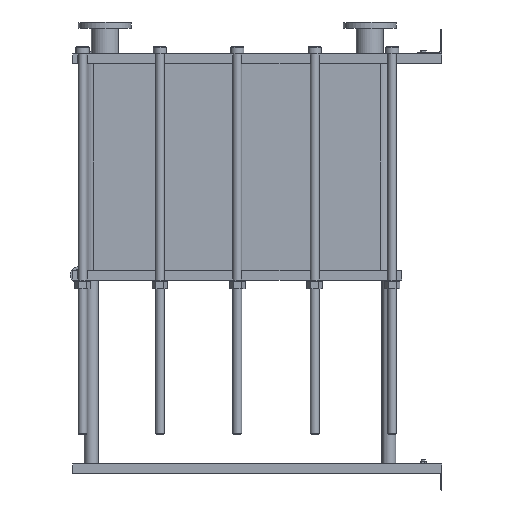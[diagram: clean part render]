
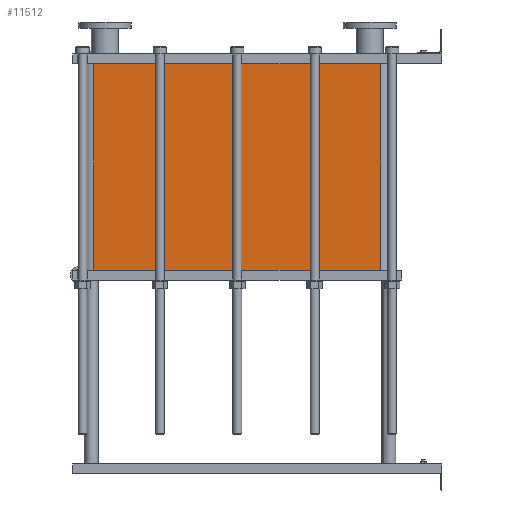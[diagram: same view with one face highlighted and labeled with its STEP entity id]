
A CAD part, left-side view. The second image highlights one B-rep face of the part: STEP entity #11512.
In plain terms, the highlighted planar face has unit normal (-1, 0, 0).
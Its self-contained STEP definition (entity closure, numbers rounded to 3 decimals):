
#1129=LINE('',#23232,#2102);
#1130=LINE('',#23236,#2103);
#1131=LINE('',#23238,#2104);
#1132=LINE('',#23239,#2105);
#2102=VECTOR('',#15887,10.);
#2103=VECTOR('',#15892,10.);
#2104=VECTOR('',#15893,10.);
#2105=VECTOR('',#15894,10.);
#3267=FACE_OUTER_BOUND('',#4093,.T.);
#4093=EDGE_LOOP('',(#10103,#10104,#10105,#10106));
#5642=VERTEX_POINT('',#23229);
#5643=VERTEX_POINT('',#23231);
#5644=VERTEX_POINT('',#23235);
#5645=VERTEX_POINT('',#23237);
#7159=EDGE_CURVE('',#5643,#5642,#1129,.T.);
#7161=EDGE_CURVE('',#5642,#5644,#1130,.T.);
#7162=EDGE_CURVE('',#5645,#5644,#1131,.T.);
#7163=EDGE_CURVE('',#5645,#5643,#1132,.T.);
#10103=ORIENTED_EDGE('',*,*,#7161,.T.);
#10104=ORIENTED_EDGE('',*,*,#7162,.F.);
#10105=ORIENTED_EDGE('',*,*,#7163,.T.);
#10106=ORIENTED_EDGE('',*,*,#7159,.T.);
#10857=PLANE('',#12751);
#11512=ADVANCED_FACE('',(#3267),#10857,.T.);
#12751=AXIS2_PLACEMENT_3D('',#23234,#15890,#15891);
#15887=DIRECTION('',(0.,0.,-1.));
#15890=DIRECTION('center_axis',(-1.,0.,0.));
#15891=DIRECTION('ref_axis',(0.,1.,0.));
#15892=DIRECTION('',(0.,-1.,0.));
#15893=DIRECTION('',(0.,0.,-1.));
#15894=DIRECTION('',(0.,1.,0.));
#23229=CARTESIAN_POINT('',(-200.,1414.,-838.35));
#23231=CARTESIAN_POINT('',(-200.,1414.,0.));
#23232=CARTESIAN_POINT('',(-200.,1414.,0.));
#23234=CARTESIAN_POINT('Origin',(-200.,248.,0.));
#23235=CARTESIAN_POINT('',(-200.,248.,-838.35));
#23236=CARTESIAN_POINT('',(-200.,539.5,-838.35));
#23237=CARTESIAN_POINT('',(-200.,248.,0.));
#23238=CARTESIAN_POINT('',(-200.,248.,0.));
#23239=CARTESIAN_POINT('',(-200.,248.,0.));
